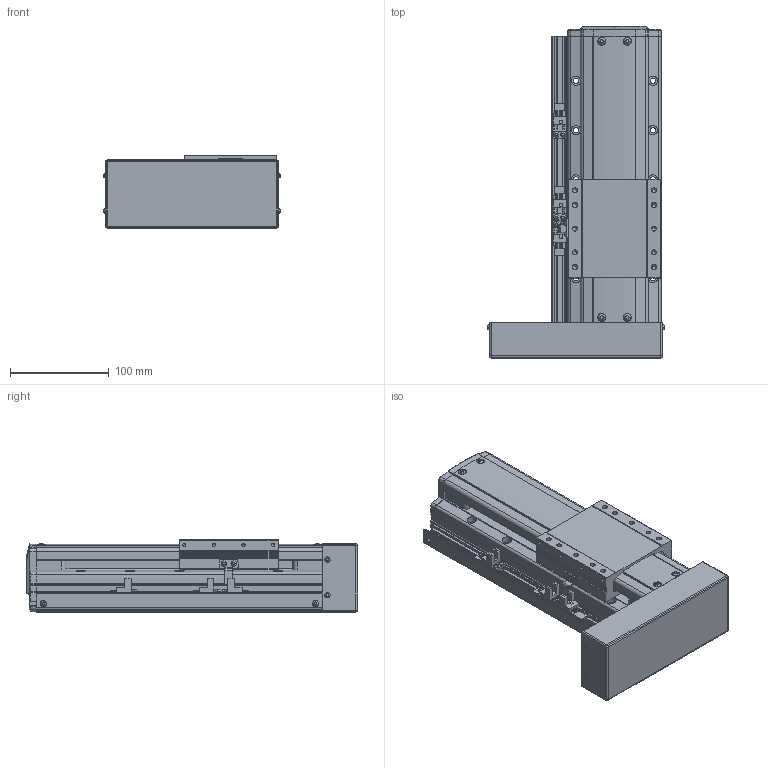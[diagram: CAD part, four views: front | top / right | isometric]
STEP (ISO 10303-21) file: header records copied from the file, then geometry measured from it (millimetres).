
FILE_DESCRIPTION(('STEP AP214'),'1');
FILE_NAME('Z:/Web/3D/PSA95/STP/PSA95-100 (3D)/PSA95ㅁㅁ-100PL+3SL.stp','2014-07-02T23:33:53',(' '),(' '),'Spatial InterOp 3D',' ',' ');
FILE_SCHEMA(('automotive_design'));
Length unit declared in the file: millimetre
Products named in the file (41): BASE; RRCV; 스크루 : Round - M4.0 x 10.0; 너트 : Square - M10.0 x 220.7419; RR1500; FRCV-090; 스크루 : Round - M4.0 x 6.0; SLBL-PA90; MOTOR PLATE COVER; 스크루 : Round - M3.0 x 6.0; EE-SX674; SBK-SX674-352; M3.0 x 6.0; SRL-16x17-380L; SGD-PA95; 스크루 : Round - M3.0 x 8.0
Bounding box: 179.13 x 336.5 x 74 mm (x, y, z)
Volume: 2155175 mm3; surface area: 297798.4 mm2
Topology: 41 solids, 41 shells, 2296 faces, 6114 edges, 3942 vertices
Faces by surface type: plane 1396, cylinder 611, cone 189, sphere 62, bspline 24, torus 14
Entity records: 92168 total; most frequent: CARTESIAN_POINT 15268, DIRECTION 12148, ORIENTED_EDGE 12020, EDGE_CURVE 6010, LINE 4196, VECTOR 4196, AXIS2_PLACEMENT_3D 3976, VERTEX_POINT 3942
